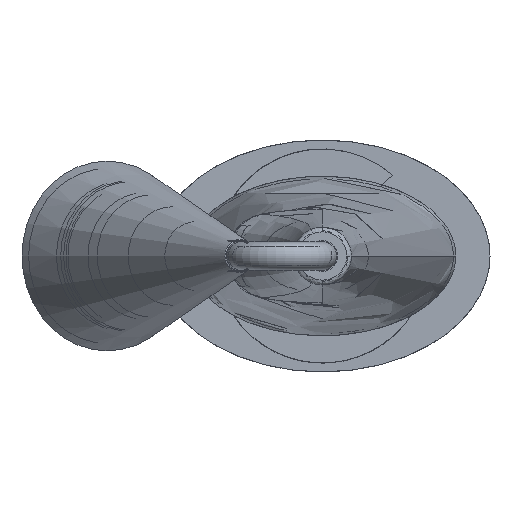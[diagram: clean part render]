
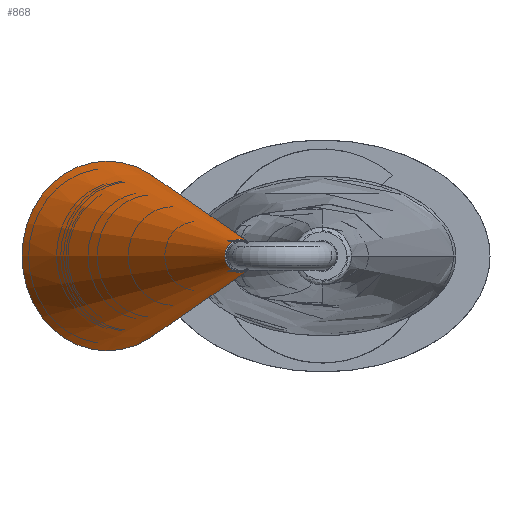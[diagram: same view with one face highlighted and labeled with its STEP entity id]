
A CAD part, front view. The second image highlights one B-rep face of the part: STEP entity #868.
In plain terms, the highlighted conical face has half-angle 14.529 degrees and reference radius 19.936 mm.
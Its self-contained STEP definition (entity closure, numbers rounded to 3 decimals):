
#868 = ADVANCED_FACE( '', ( #2257, #2258 ), #2259, .T. );
#2257 = FACE_OUTER_BOUND( '', #7631, .T. );
#2258 = FACE_BOUND( '', #7632, .T. );
#2259 = CONICAL_SURFACE( '', #7633, 19.936, 0.254 );
#7631 = EDGE_LOOP( '', ( #12111 ) );
#7632 = EDGE_LOOP( '', ( #12112 ) );
#7633 = AXIS2_PLACEMENT_3D( '', #12113, #12114, #12115 );
#12111 = ORIENTED_EDGE( '', *, *, #14249, .T. );
#12112 = ORIENTED_EDGE( '', *, *, #14854, .F. );
#12113 = CARTESIAN_POINT( '', ( -45.228, -1074.874, 0. ) );
#12114 = DIRECTION( '', ( -0.442, 0.897, 0. ) );
#12115 = DIRECTION( '', ( 0.897, 0.442, 0. ) );
#14249 = EDGE_CURVE( '', #15615, #15615, #15616, .F. );
#14854 = EDGE_CURVE( '', #16632, #16632, #16633, .T. );
#15615 = VERTEX_POINT( '', #17705 );
#15616 = CIRCLE( '', #17706, 19.936 );
#16632 = VERTEX_POINT( '', #20205 );
#16633 = CIRCLE( '', #20206, 3.558 );
#17705 = CARTESIAN_POINT( '', ( -27.349, -1066.054, 0. ) );
#17706 = AXIS2_PLACEMENT_3D( '', #23627, #23628, #23629 );
#20205 = CARTESIAN_POINT( '', ( -20.456, -1133.125, 0. ) );
#20206 = AXIS2_PLACEMENT_3D( '', #24303, #24304, #24305 );
#23627 = CARTESIAN_POINT( '', ( -45.228, -1074.874, 0. ) );
#23628 = DIRECTION( '', ( -0.442, 0.897, 0. ) );
#23629 = DIRECTION( '', ( 0.897, 0.442, 0. ) );
#24303 = CARTESIAN_POINT( '', ( -17.265, -1131.551, 0. ) );
#24304 = DIRECTION( '', ( 0.442, -0.897, 0. ) );
#24305 = DIRECTION( '', ( -0.897, -0.442, 0. ) );
